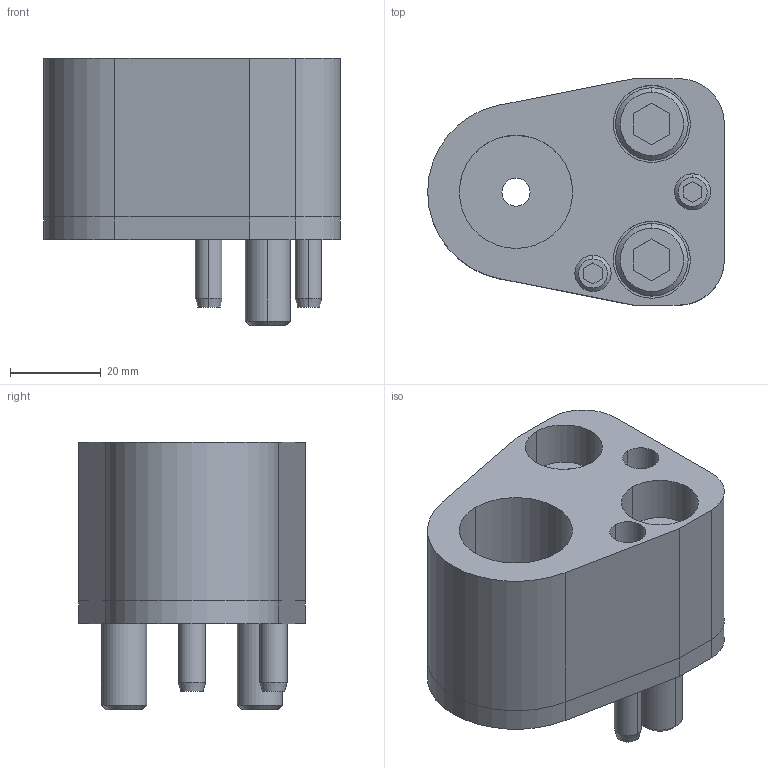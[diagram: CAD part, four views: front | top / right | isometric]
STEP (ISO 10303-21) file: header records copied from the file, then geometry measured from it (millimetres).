
FILE_DESCRIPTION(/* description */ (''),/* implementation_level */ '2;1');
FILE_NAME(/* name */ '3d_hap-ap25_02771_r00.stp',/* time_stamp */ '2011-01-10T14:14:58+09:00',/* author */ ('MISUMI'),/* organization */ (''),/* preprocessor_version */ 'ST-DEVELOPER v11',/* originating_system */ 'UGS - NX 5.0',/* authorisation */ '');
FILE_SCHEMA (('CONFIG_CONTROL_DESIGN'));
Length unit declared in the file: millimetre
Products named in the file (1): 3d_hap-ap25_02771_r00
Bounding box: 65.5 x 50 x 59 mm (x, y, z)
Volume: 85254.9 mm3; surface area: 31432.2 mm2
Topology: 8 solids, 8 shells, 155 faces, 346 edges, 222 vertices
Faces by surface type: plane 67, cylinder 62, cone 26
Entity records: 4474 total; most frequent: DIRECTION 804, CARTESIAN_POINT 772, ORIENTED_EDGE 692, EDGE_CURVE 346, AXIS2_PLACEMENT_3D 306, VERTEX_POINT 222, LINE 192, VECTOR 192
